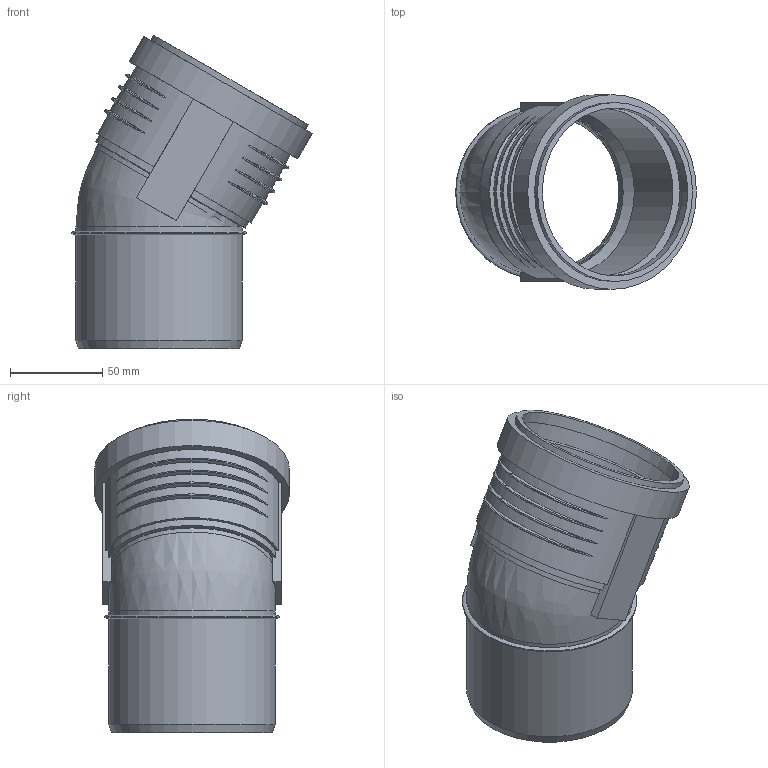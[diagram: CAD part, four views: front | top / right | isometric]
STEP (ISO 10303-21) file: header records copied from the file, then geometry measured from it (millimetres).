
FILE_DESCRIPTION(/* description */ (''),/* implementation_level */ '2;1');
FILE_NAME(/* name */ 'Z:\Geberit\Export\NewStep\390421.stp',/* time_stamp */ '2014-04-02T08:12:39+02:00',/* author */ ('ML'),/* organization */ (''),/* preprocessor_version */ 'ST-DEVELOPER v15.2',/* originating_system */ 'Autodesk Inventor 2014',/* authorisation */ '');
FILE_SCHEMA (('AUTOMOTIVE_DESIGN { 1 0 10303 214 3 1 1 }'));
Length unit declared in the file: millimetre
Products named in the file (3): 861312; 861403; 390421
Bounding box: 130.81 x 105.8 x 170.3 mm (x, y, z)
Volume: 155636 mm3; surface area: 105123 mm2
Topology: 2 solids, 2 shells, 68 faces, 162 edges, 109 vertices
Faces by surface type: torus 28, plane 19, cylinder 18, cone 2, bspline 1
Full cylindrical faces by diameter (mm): 84 x2, 84.2 x1, 90.2 x4, 91.2 x2, 97.2 x1, 99.8 x1, 105.8 x1
Entity records: 2726 total; most frequent: CARTESIAN_POINT 1150, DIRECTION 290, ORIENTED_EDGE 278, EDGE_CURVE 139, AXIS2_PLACEMENT_3D 127, VERTEX_POINT 106, EDGE_LOOP 103, STYLED_ITEM 70
